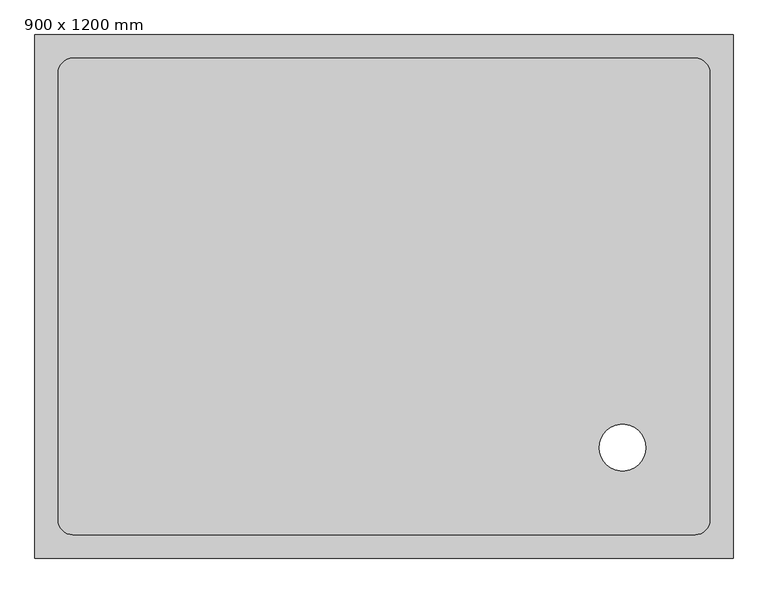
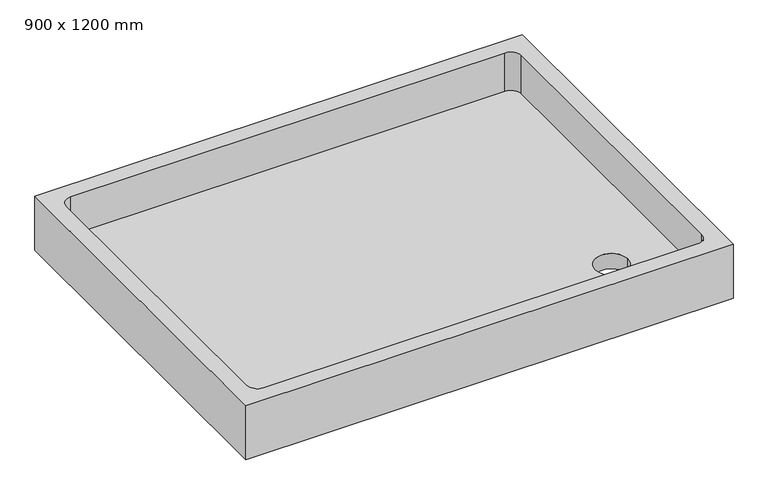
"""IFC4 building model written with IfcOpenShell, lengths in millimetres: flow terminal geometry, Receveur d'angle - Vidange en angle : 900 x 1200 mm."""

import ifcopenshell
import ifcopenshell.guid

model = None  # the IFC model being written
_history = None  # IfcOwnerHistory: only IFC2X3 demands one
_inside = {}  # id of a spatial element -> (the spatial element, [elements in it])
_under = {}  # id of a project, library or spatial element -> (it, [spatial elements below it])
_declared = {}  # id of a project -> (the project, [libraries it declares])
_typed = {}  # id of a type object -> (the type object, [elements of that type])
_made_of = {}  # id of a material, layer set ... -> (it, [elements and type objects made of it])


def new_model(schema):
    """Start an empty IFC model of exactly this schema.

    Asked for "IFC4X3", IfcOpenShell would pick the latest addendum, in which some entities
    have other attributes; the version numbers below select the first issue.
    IFC2X3 requires an IfcOwnerHistory on every rooted entity: one is made here for all.
    """
    global model, _history
    if schema == "IFC4X3":
        model = ifcopenshell.file(schema_version=(4, 3, 0, 0))
    else:
        model = ifcopenshell.file(schema=schema)
    _inside.clear()
    _under.clear()
    _declared.clear()
    _typed.clear()
    _made_of.clear()
    _history = None
    if model.schema == "IFC2X3":
        org = make("IfcOrganization", Name="unknown")
        user = make(
            "IfcPersonAndOrganization",
            ThePerson=make("IfcPerson", FamilyName="unknown"),
            TheOrganization=org,
        )
        app = make(
            "IfcApplication",
            ApplicationDeveloper=org,
            Version="unknown",
            ApplicationFullName="unknown",
            ApplicationIdentifier="unknown",
        )
        _history = make(
            "IfcOwnerHistory",
            OwningUser=user,
            OwningApplication=app,
            ChangeAction="ADDED",
            CreationDate=0,
        )
    return model


def make(cls, **values):
    """One entity of the class cls with the attributes given. An attribute that is None is left unset."""
    return model.create_entity(
        cls, **{name: value for name, value in values.items() if value is not None}
    )


def rooted(cls, **values):
    """An entity with a GlobalId (a new one), such as an element, a storey or a relation."""
    return make(cls, GlobalId=ifcopenshell.guid.new(), OwnerHistory=_history, **values)


def si_unit(unit_type, name, prefix=None):
    """IfcSIUnit, for example si_unit("LENGTHUNIT", "METRE", prefix="MILLI")."""
    return make("IfcSIUnit", UnitType=unit_type, Prefix=prefix, Name=name)


def assignment(units):
    """IfcUnitAssignment: the units of a project."""
    return None if units is None else make("IfcUnitAssignment", Units=units)


def point(xyz):
    """IfcCartesianPoint."""
    return None if xyz is None else make("IfcCartesianPoint", Coordinates=xyz)


def direction(xyz):
    """IfcDirection."""
    return None if xyz is None else make("IfcDirection", DirectionRatios=xyz)


def frame(location, z_axis=None, x_axis=None):
    """IfcAxis2Placement3D, a coordinate frame: its origin and axes. An axis left out is left unset."""
    return make(
        "IfcAxis2Placement3D",
        Location=point(location),
        Axis=direction(z_axis),
        RefDirection=direction(x_axis),
    )


def origin():
    """The frame at (0, 0, 0) with its axes left unset."""
    return frame((0.0, 0.0, 0.0))


def place(relative_to, where):
    """IfcLocalPlacement: puts the frame where relative to a parent placement (None: the world)."""
    return make(
        "IfcLocalPlacement", PlacementRelTo=relative_to, RelativePlacement=where
    )


def context(
    kind, dimensions, precision=None, world=None, true_north=None, identifier=None
):
    """IfcGeometricRepresentationContext, for example the 3D "Model" context."""
    return make(
        "IfcGeometricRepresentationContext",
        ContextIdentifier=identifier,
        ContextType=kind,
        CoordinateSpaceDimension=dimensions,
        Precision=precision,
        WorldCoordinateSystem=world,
        TrueNorth=true_north,
    )


def project(units=None, contexts=None):
    """IfcProject with its units and contexts."""
    return rooted(
        "IfcProject",
        Name="project",
        RepresentationContexts=contexts,
        UnitsInContext=assignment(units),
    )


def spatial(cls, under=None, at=None, **own):
    """A site, building, storey or space (cls), placed at a placement, below another one or the project."""
    s = rooted(cls, ObjectPlacement=at, **own)
    if under is not None:
        _under.setdefault(under.id(), (under, []))[1].append(s)
    return s


def polyline(points):
    """IfcPolyline through the points."""
    return make("IfcPolyline", Points=[point(p) for p in points])


def circle_curve(where, radius):
    """IfcCircle in the frame where."""
    return make("IfcCircle", Position=where, Radius=radius)


def shape(context_of_items, identifier, shape_type, items):
    """IfcShapeRepresentation: the items that make up one representation, for example the "Body"."""
    return make(
        "IfcShapeRepresentation",
        ContextOfItems=context_of_items,
        RepresentationIdentifier=identifier,
        RepresentationType=shape_type,
        Items=items,
    )


def source(mapping_origin, context_of_items, identifier, shape_type, items):
    """IfcRepresentationMap: a shape defined once, which mapped items show again and again."""
    return make(
        "IfcRepresentationMap",
        MappingOrigin=mapping_origin,
        MappedRepresentation=shape(context_of_items, identifier, shape_type, items),
    )


def transform(
    local_origin,
    x_axis=None,
    y_axis=None,
    z_axis=None,
    scale=None,
    scale2=None,
    scale3=None,
    uniform=True,
):
    """IfcCartesianTransformationOperator3D, or its non-uniform kind. x_axis, y_axis, z_axis: its Axis1, 2, 3."""
    if uniform:
        return make(
            "IfcCartesianTransformationOperator3D",
            Axis1=direction(x_axis),
            Axis2=direction(y_axis),
            LocalOrigin=point(local_origin),
            Scale=scale,
            Axis3=direction(z_axis),
        )
    return make(
        "IfcCartesianTransformationOperator3DnonUniform",
        Axis1=direction(x_axis),
        Axis2=direction(y_axis),
        LocalOrigin=point(local_origin),
        Scale=scale,
        Axis3=direction(z_axis),
        Scale2=scale2,
        Scale3=scale3,
    )


def mapped(mapping_source, mapping_target):
    """IfcMappedItem: shows the shape of a source again, moved by a transform."""
    return make(
        "IfcMappedItem", MappingSource=mapping_source, MappingTarget=mapping_target
    )


def made_of(thing, what):
    """Note that an element or type object is made of a material, layer set ...; save() writes the relation."""
    if what is not None:
        _made_of.setdefault(what.id(), (what, []))[1].append(thing)
    return thing


def element(
    cls,
    number,
    at=None,
    inside=None,
    cuts=None,
    type_object=None,
    material=None,
    context=None,
    identifier="Body",
    shape_type=None,
    held_by="IfcProductDefinitionShape",
    body=None,
    shapes=None,
    **own,
):
    """One element of the class cls, such as IfcWall. Its Tag is "e" and its number.

    at: its placement. inside: the storey or other place that contains it. cuts: it is an
    opening in that element (IfcRelVoidsElement). A single representation is given by context,
    identifier, shape_type and body (its items); several are given by shapes. held_by: the class
    of the entity that holds the representations. save() writes the other relations.
    """
    e = rooted(cls, Tag="e%d" % number, ObjectPlacement=at, **own)
    if body is not None:
        shapes = [shape(context, identifier, shape_type, body)]
    if shapes is not None:
        e.Representation = make(held_by, Representations=shapes)
    if inside is not None:
        _inside.setdefault(inside.id(), (inside, []))[1].append(e)
    if cuts is not None:
        rooted(
            "IfcRelVoidsElement", RelatingBuildingElement=cuts, RelatedOpeningElement=e
        )
    if type_object is not None:
        _typed.setdefault(type_object.id(), (type_object, []))[1].append(e)
    return made_of(e, material)


def aggregate(whole, parts):
    """IfcRelAggregates: a whole, such as a stair, and the parts it consists of."""
    return rooted("IfcRelAggregates", RelatingObject=whole, RelatedObjects=parts)


def save(model, path):
    """Write the relations noted so far, then the file.

    IfcRelAggregates (storeys below a building ...), IfcRelContainedInSpatialStructure (elements
    in a storey), IfcRelDefinesByType, IfcRelAssociatesMaterial and IfcRelDeclares: one each for
    every whole, place, type object, material and project.
    """
    for whole, parts in _under.values():
        aggregate(whole, parts)
    for where, things in _inside.values():
        rooted(
            "IfcRelContainedInSpatialStructure",
            RelatedElements=things,
            RelatingStructure=where,
        )
    for kind, things in _typed.values():
        rooted("IfcRelDefinesByType", RelatedObjects=things, RelatingType=kind)
    for what, things in _made_of.values():
        rooted("IfcRelAssociatesMaterial", RelatedObjects=things, RelatingMaterial=what)
    for by, libraries in _declared.values():
        rooted("IfcRelDeclares", RelatingContext=by, RelatedDefinitions=libraries)
    model.write(path)


def plane_surface(at):
    """IfcPlane: the flat surface through the origin of the frame at, square to its z axis."""
    return make("IfcPlane", Position=at)


def revolved_surface(curve, axis_point, axis_direction):
    """IfcSurfaceOfRevolution: the curve turned about the line through axis_point along axis_direction."""
    return make(
        "IfcSurfaceOfRevolution",
        SweptCurve=make("IfcArbitraryOpenProfileDef", ProfileType="CURVE", Curve=curve),
        AxisPosition=make("IfcAxis1Placement", Location=point(axis_point), Axis=direction(axis_direction)),
    )


def advanced_brep(points, edges, surfaces, faces):
    """IfcAdvancedBrep: a solid bounded by faces that lie on surfaces and meet in shared edges.

    An edge is (start, end): straight between two places in points (the first is 0);
    or (start, end, curve); or (start, end, curve, False) where it runs against its curve.
    A face is (place in surfaces, loops), or (place, loops, False) where it looks against
    its surface's normal. A loop lists edges by number (the first is 1), with a minus sign
    where the edge is run from its end to its start. The first loop is the outer one.
    """
    corners = [point(p) for p in points]
    vertices = [make("IfcVertexPoint", VertexGeometry=c) for c in corners]
    made = []
    for start, end, *more in edges:
        made.append(
            make(
                "IfcEdgeCurve",
                EdgeStart=vertices[start],
                EdgeEnd=vertices[end],
                EdgeGeometry=more[0] if more else make("IfcPolyline", Points=[corners[start], corners[end]]),
                SameSense=more[1] if len(more) > 1 else True,
            )
        )
    hull = []
    for where, loops, *sense in faces:
        bounds = []
        for j, loop in enumerate(loops):
            ring = [make("IfcOrientedEdge", EdgeElement=made[abs(k) - 1], Orientation=k > 0) for k in loop]
            bounds.append(
                make(
                    "IfcFaceOuterBound" if j == 0 else "IfcFaceBound",
                    Bound=make("IfcEdgeLoop", EdgeList=ring),
                    Orientation=True,
                )
            )
        hull.append(make("IfcAdvancedFace", Bounds=bounds, FaceSurface=surfaces[where], SameSense=sense[0] if sense else True))
    return make("IfcAdvancedBrep", Outer=make("IfcClosedShell", CfsFaces=hull))


def flow_terminal_900_x_1200_mm_4694701e(model_context):
    return source(origin(), model_context, "Body", "AdvancedBrep", [
        advanced_brep(
        [(600.0, 450.0, 140.0), (-600.0, 450.0, 140.0), (-600.0, -450.0, 140.0), (600.0, -450.0, 140.0), (560.0, -384.6, 140.0), (534.6, -410.0, 140.0), (-534.6, -410.0, 140.0), (-560.0, -384.6, 140.0), (-560.0, 384.6, 140.0), (-534.6, 410.0, 140.0), (534.6, 410.0, 140.0), (560.0, 384.6, 140.0), (600.0, 450.0, 0.0), (600.0, -450.0, 0.0), (-600.0, -450.0, 0.0), (-600.0, 450.0, 0.0), (370.0, -260.0, 0.0), (450.0, -260.0, 0.0), (534.6, -410.0, 40.0), (560.0, -384.6, 40.0), (560.0, 384.6, 40.0), (534.6, 410.0, 40.0), (-534.6, 410.0, 40.0), (-560.0, 384.6, 40.0), (-560.0, -384.6, 40.0), (-534.6, -410.0, 40.0), (450.0, -260.0, 40.0), (370.0, -260.0, 40.0)],
        [
            (0, 1),
            (1, 2),
            (2, 3),
            (3, 0),
            (4, 5, circle_curve(frame((534.6, -384.6, 140.0), z_axis=(0.0, 0.0, -1.0), x_axis=(1.0, 0.0, 0.0)), 25.4)),
            (5, 6),
            (6, 7, circle_curve(frame((-534.6, -384.6, 140.0), z_axis=(0.0, 0.0, -1.0), x_axis=(1.0, 0.0, 0.0)), 25.4)),
            (7, 8),
            (8, 9, circle_curve(frame((-534.6, 384.6, 140.0), z_axis=(0.0, 0.0, -1.0), x_axis=(1.0, 0.0, 0.0)), 25.4)),
            (9, 10),
            (10, 11, circle_curve(frame((534.6, 384.6, 140.0), z_axis=(0.0, 0.0, -1.0), x_axis=(1.0, 0.0, 0.0)), 25.4)),
            (11, 4),
            (12, 13),
            (13, 14),
            (14, 15),
            (15, 12),
            (16, 17, circle_curve(frame((410.0, -260.0, 0.0), z_axis=(0.0, 0.0, 1.0), x_axis=(1.0, 0.0, 0.0)), 40.0)),
            (17, 16, circle_curve(frame((410.0, -260.0, 0.0), z_axis=(0.0, 0.0, 1.0), x_axis=(1.0, 0.0, 0.0)), 40.0)),
            (0, 12),
            (15, 1),
            (14, 2),
            (13, 3),
            (18, 19, circle_curve(frame((534.6, -384.6, 40.0), z_axis=(0.0, 0.0, 1.0), x_axis=(1.0, 0.0, 0.0)), 25.4)),
            (19, 20),
            (20, 21, circle_curve(frame((534.6, 384.6, 40.0), z_axis=(0.0, 0.0, 1.0), x_axis=(1.0, 0.0, 0.0)), 25.4)),
            (21, 22),
            (22, 23, circle_curve(frame((-534.6, 384.6, 40.0), z_axis=(0.0, 0.0, 1.0), x_axis=(1.0, 0.0, 0.0)), 25.4)),
            (23, 24),
            (24, 25, circle_curve(frame((-534.6, -384.6, 40.0), z_axis=(0.0, 0.0, 1.0), x_axis=(1.0, 0.0, 0.0)), 25.4)),
            (25, 18),
            (26, 27, circle_curve(frame((410.0, -260.0, 40.0), z_axis=(0.0, 0.0, -1.0), x_axis=(1.0, 0.0, 0.0)), 40.0)),
            (27, 26, circle_curve(frame((410.0, -260.0, 40.0), z_axis=(0.0, 0.0, -1.0), x_axis=(1.0, 0.0, 0.0)), 40.0)),
            (18, 5),
            (4, 19),
            (11, 20),
            (10, 21),
            (9, 22),
            (8, 23),
            (7, 24),
            (6, 25),
            (16, 27),
            (26, 17),
        ],
        [
            plane_surface(frame((-600.0, 450.0, 140.0), z_axis=(0.0, 0.0, 1.0), x_axis=(-1.0, 0.0, 0.0))),
            plane_surface(frame((-600.0, 450.0, 0.0), z_axis=(0.0, 0.0, -1.0), x_axis=(1.0, 0.0, 0.0))),
            plane_surface(frame((600.0, 450.0, 140.0), z_axis=(0.0, 1.0, 0.0), x_axis=(0.0, 0.0, -1.0))),
            plane_surface(frame((-600.0, 450.0, 140.0), z_axis=(-1.0, 0.0, 0.0), x_axis=(0.0, 0.0, -1.0))),
            plane_surface(frame((-600.0, -450.0, 140.0), z_axis=(0.0, -1.0, 0.0), x_axis=(0.0, 0.0, -1.0))),
            plane_surface(frame((600.0, -450.0, 140.0), z_axis=(1.0, 0.0, 0.0), x_axis=(0.0, 0.0, -1.0))),
            plane_surface(frame((560.0, -384.6, 40.0), z_axis=(0.0, 0.0, 1.0), x_axis=(0.0, -1.0, 0.0))),
            revolved_surface(polyline([(560.0, -384.6, 140.0), (560.0, -384.6, 40.0)]), (534.6, -384.6, 40.0), (0.0, 0.0, 1.0)),
            plane_surface(frame((560.0, -384.6, 140.0), z_axis=(-1.0, 0.0, 0.0), x_axis=(0.0, 0.0, -1.0))),
            revolved_surface(polyline([(560.0, 384.6, 140.0), (560.0, 384.6, 40.0)]), (534.6, 384.6, 40.0), (0.0, 0.0, 1.0)),
            plane_surface(frame((534.6, 410.0, 140.0), z_axis=(0.0, -1.0, 0.0), x_axis=(0.0, 0.0, -1.0))),
            revolved_surface(polyline([(-509.20000000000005, 384.6, 140.0), (-509.20000000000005, 384.6, 40.0)]), (-534.6, 384.6, 40.0), (0.0, 0.0, 1.0)),
            plane_surface(frame((-560.0, 384.6, 140.0), z_axis=(1.0, 0.0, 0.0), x_axis=(0.0, 0.0, -1.0))),
            revolved_surface(polyline([(-509.20000000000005, -384.6, 140.0), (-509.20000000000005, -384.6, 40.0)]), (-534.6, -384.6, 40.0), (0.0, 0.0, 1.0)),
            plane_surface(frame((-534.6, -410.0, 140.0), z_axis=(0.0, 1.0, 0.0), x_axis=(0.0, 0.0, -1.0))),
            revolved_surface(polyline([(450.0, -260.0, 40.0), (450.0, -260.0, 0.0)]), (410.0, -260.0, 0.0), (0.0, 0.0, 1.0)),
        ],
        [
            (0, [[1, 2, 3, 4], [5, 6, 7, 8, 9, 10, 11, 12]]),
            (1, [[13, 14, 15, 16], [17, 18]]),
            (2, [[-1, 19, -16, 20]]),
            (3, [[-2, -20, -15, 21]]),
            (4, [[-3, -21, -14, 22]]),
            (5, [[-4, -22, -13, -19]]),
            (6, [[23, 24, 25, 26, 27, 28, 29, 30], [31, 32]]),
            (7, [[-23, 33, -5, 34]]),
            (8, [[-24, -34, -12, 35]]),
            (9, [[-25, -35, -11, 36]]),
            (10, [[-26, -36, -10, 37]]),
            (11, [[-27, -37, -9, 38]]),
            (12, [[-28, -38, -8, 39]]),
            (13, [[-29, -39, -7, 40]]),
            (14, [[-30, -40, -6, -33]]),
            (15, [[41, -31, 42, -17]]),
            (15, [[-41, -18, -42, -32]]),
        ],
    ),
    ])


if __name__ == "__main__":
    model = new_model("IFC4")
    model_context = context("Model", 3, world=origin())
    ifc_project = project(units=[si_unit("LENGTHUNIT", "METRE", prefix="MILLI")], contexts=[model_context])
    site = spatial("IfcSite", under=ifc_project)
    building = spatial("IfcBuilding", under=site)
    placement = place(None, origin())
    flow_terminal_900_x_1200_mm_shape = flow_terminal_900_x_1200_mm_4694701e(model_context)
    element("IfcFlowTerminal", 1, ObjectType="Receveur d'angle - Vidange en angle : 900 x 1200 mm", at=placement, inside=building, context=model_context, shape_type="MappedRepresentation", body=[
        mapped(flow_terminal_900_x_1200_mm_shape, transform((0.0, 0.0, 0.0), x_axis=(1.0, 0.0, 0.0), y_axis=(0.0, 1.0, 0.0), z_axis=(0.0, 0.0, 1.0))),
    ])
    save(model, "model.ifc")
